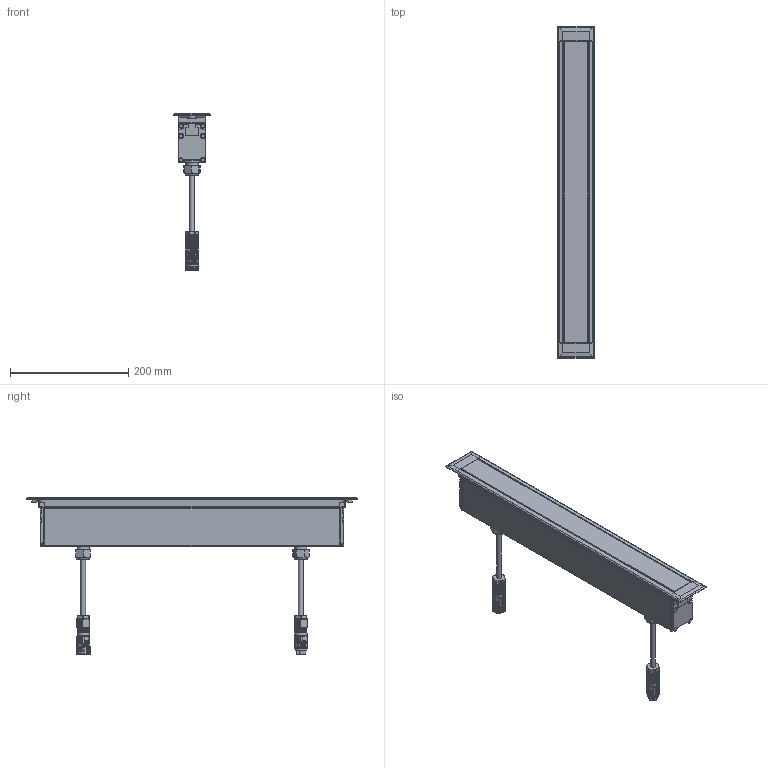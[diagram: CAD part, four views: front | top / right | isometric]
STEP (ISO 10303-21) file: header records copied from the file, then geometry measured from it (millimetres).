
FILE_DESCRIPTION(/* description */ ('Unknown'),/* implementation_level */ '2;1');
FILE_NAME(/* name */ 'ARCHILINE A 22.1',/* time_stamp */ '2023-01-24T02:21:42-05:00',/* author */ ('Unknown'),/* organization */ ('Unknown'),/* preprocessor_version */ 'ST-DEVELOPER v18.1',/* originating_system */ 'Solid Edge',/* authorisation */ 'Unknown');
FILE_SCHEMA (('AUTOMOTIVE_DESIGN {1 0 10303 214 3 1 1}'));
Products named in the file (1): ARCHILINE A 22.1
Bounding box: 62 x 561 x 266.28 mm (x, y, z)
Volume: 747703.7 mm3; surface area: 415143.4 mm2
Topology: 1 solids, 1 shells, 4575 faces, 13576 edges, 9012 vertices
Faces by surface type: plane 2481, cylinder 1080, bspline 632, cone 199, torus 150, sphere 33
Full cylindrical faces by diameter (mm): 2 x5, 2.494 x1, 2.9 x12, 3 x2, 4 x1, 4.922 x2, 6.5 x12, 8.13 x2, 12 x1, 17 x1, 17.168 x2, 18.724 x2, 19 x10, 19.919 x2, 20.14 x6, 20.317 x1, 20.4 x2, 20.5 x2, 20.6 x2, 21.232 x2, 21.34 x6, 22.9 x2, 23 x4
Entity records: 764393 total; most frequent: CARTESIAN_POINT 617327, ORIENTED_EDGE 26520, DIRECTION 21393, EDGE_CURVE 13260, VERTEX_POINT 8904, AXIS2_PLACEMENT_3D 7710, LINE 5973, VECTOR 5973
